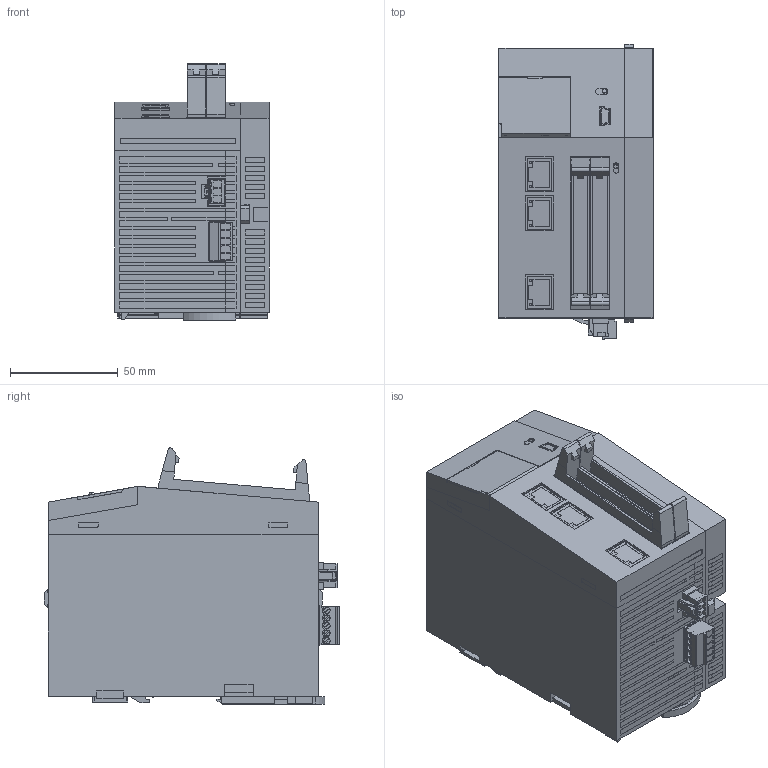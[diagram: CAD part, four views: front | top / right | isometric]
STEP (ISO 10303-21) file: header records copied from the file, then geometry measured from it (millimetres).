
FILE_DESCRIPTION (( 'STEP AP214' ), '1' );
FILE_NAME ('agm1csec16t.STEP', '2021-09-10T05:47:53', ( '' ), ( '' ), 'SwSTEP 2.0', 'SolidWorks 2019', '' );
FILE_SCHEMA (( 'AUTOMOTIVE_DESIGN' ));
Length unit declared in the file: millimetre
Products named in the file (4): agm1csec16t; agm1csrx16t_endcover; agm1csrx16t_afpg805
Assembly tree (3 placements, depth 2):
  agm1csec16t
    agm1csec16t
    agm1csrx16t_endcover
    agm1csrx16t_afpg805
Bounding box: 71.4 x 136.93 x 118.79 mm (x, y, z)
Volume: 728538.7 mm3; surface area: 101560.6 mm2
Topology: 4 solids, 5 shells, 1579 faces, 4213 edges, 2747 vertices
Faces by surface type: plane 1431, cylinder 143, cone 4, bspline 1
Entity records: 52841 total; most frequent: CARTESIAN_POINT 8705, ORIENTED_EDGE 8426, DIRECTION 7630, EDGE_CURVE 4213, LINE 3862, VECTOR 3862, VERTEX_POINT 2747, AXIS2_PLACEMENT_3D 1884
